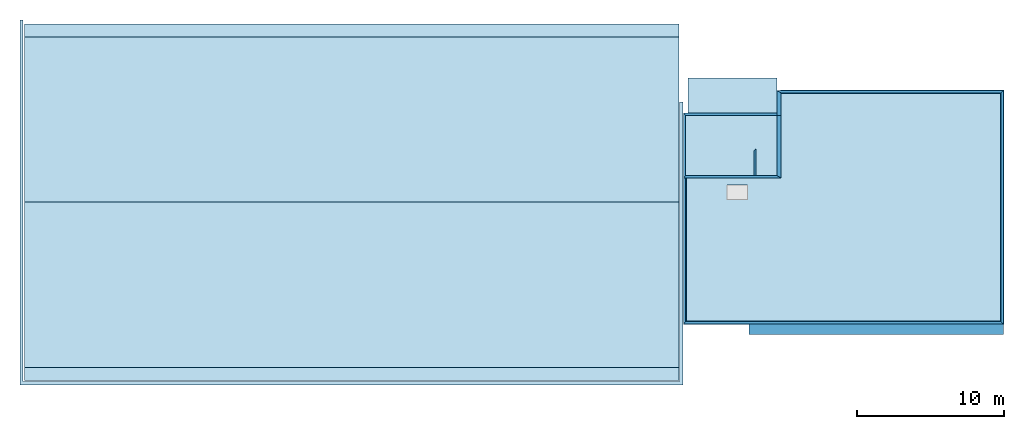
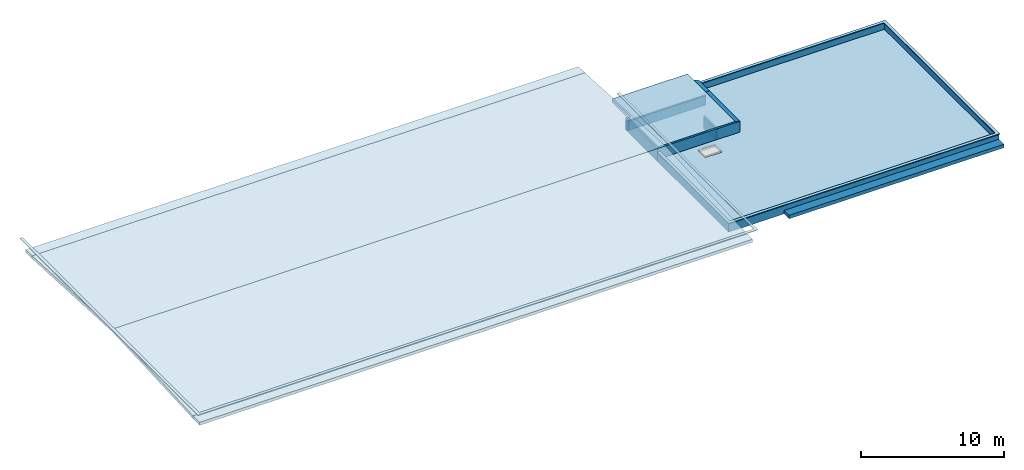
# One storey, part 1 of 2: 10 walls, 8 slabs, 1 beam, 1 opening.
"""IFC2X3 building model written with IfcOpenShell, lengths in metres."""

from ifc_helpers import new_model, entity, si_unit, converted_unit, money_unit, direction, frame, frame_2d, origin_with_axes, place, context, subcontext, project, spatial, polyline, rectangle, outline, extrude, material, layer, layer_set, layer_usage, type_object, element, save


model = new_model("IFC2X3")

# Units and contexts
model_context = context("Model", 3, precision=1e-05, world=origin_with_axes(), true_north=direction((0.0, 1.0)))
body_context = subcontext(model_context, "Body", "Model", "MODEL_VIEW")
ifc_project = project(units=[si_unit("LENGTHUNIT", "METRE"), si_unit("AREAUNIT", "SQUARE_METRE"), si_unit("VOLUMEUNIT", "CUBIC_METRE"), converted_unit("PLANEANGLEUNIT", "DEGREE", entity("IfcPlaneAngleMeasure", 0.0174532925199), si_unit("PLANEANGLEUNIT", "RADIAN"), dimensions=[0, 0, 0, 0, 0, 0, 0]), si_unit("SOLIDANGLEUNIT", "STERADIAN"), money_unit("EUR"), converted_unit("TIMEUNIT", "Year", entity("IfcTimeMeasure", 31556926.0), si_unit("TIMEUNIT", "SECOND"), dimensions=[0, 0, 0, 0, 0, 0, 0]), si_unit("MASSUNIT", "GRAM"), si_unit("THERMODYNAMICTEMPERATUREUNIT", "DEGREE_CELSIUS"), si_unit("LUMINOUSINTENSITYUNIT", "LUMEN")], contexts=[model_context])

# Site, building, storey
site_placement = place(None, origin_with_axes())
site = spatial("IfcSite", under=ifc_project, at=site_placement, Name="Site", CompositionType="ELEMENT")
building_placement = place(site_placement, origin_with_axes())
building = spatial("IfcBuilding", under=site, at=building_placement, Name="Bâtiment", CompositionType="ELEMENT")
storey_placement = place(building_placement, frame((0.0, 0.0, 6.2), z_axis=(0.0, 0.0, 1.0), x_axis=(1.0, 0.0, 0.0)))
storey = spatial("IfcBuildingStorey", under=building, at=storey_placement, Name="PLAN DE MASSE-TOITURE", CompositionType="ELEMENT", Elevation=6.2)

# Beam
ifc_material_1 = material(Name="Hachure solide 2670559909")
beam_type = type_object("IfcBeamType", Name="Hachure solide 2670559909 700 x 300", PredefinedType="NOTDEFINED")
beam_placement = place(storey_placement, frame((67.258457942, 5.51881571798, 0.3), z_axis=(0.0, 0.0, 1.0), x_axis=(0.0, 1.0, 0.0)))
element("IfcBeam", 1, at=beam_placement, inside=storey, type_object=beam_type, material=ifc_material_1, Name="Pou-002", ObjectType="Hachure solide 2670559909 700 x 300", context=body_context, shape_type="SweptSolid", body=[
    extrude(rectangle(XDim=0.3, YDim=0.7, at=frame_2d((-0.15, 0.0), x_axis=(1.0, 0.0))), frame((0.0, 0.0, 0.0), z_axis=(0.0, 1.0, 0.0), x_axis=(0.0, 0.0, 1.0)), (0.0, 0.0, 1.0), 17.32),
])

# Slabs
ifc_material_2 = material(Name="Hachure solide* 2593434267")
ifc_layer_1 = layer(ifc_material_2, 0.3, ventilated="UNKNOWN")
ifc_layer_set_1 = layer_set([ifc_layer_1], Name="Hachure solide* 2593434267 0.3")
ifc_layer_usage_1 = layer_usage(ifc_layer_set_1, "AXIS3", "NEGATIVE", 0.3)
slab_type_1 = type_object("IfcSlabType", Name="Hachure solide* 2593434267 300", PredefinedType="FLOOR")
slab_1_placement = place(storey_placement, frame((45.778457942, 22.628815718, 1.1), z_axis=(0.0, 0.0, 1.0), x_axis=(1.0, 0.0, 0.0)))
element("IfcSlab", 2, at=slab_1_placement, inside=storey, type_object=slab_type_1, material=ifc_layer_usage_1, Name="Dalle-001", PredefinedType="FLOOR", context=body_context, shape_type="SweptSolid", body=[
    extrude(outline(polyline([(0.0, 0.0), (0.0, -2.56), (-0.14, -2.56), (-0.14, -6.66), (6.06, -6.66), (6.06, 0.0), (0.0, 0.0)])), frame((0.0, 0.0, -0.3), z_axis=(0.0, 0.0, 1.0), x_axis=(1.0, 0.0, 0.0)), (0.0, 0.0, 1.0), 0.3),
])
ifc_material_3 = material(Name="Placomur 278529293")
ifc_layer_2 = layer(ifc_material_3, 0.0599999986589, ventilated="UNKNOWN")
ifc_material_4 = material(Name="Hachure solide 278529293")
ifc_layer_3 = layer(ifc_material_4, 0.0359999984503, ventilated="UNKNOWN")
ifc_material_5 = material(Name="Contre-plaqué 270275980")
ifc_layer_4 = layer(ifc_material_5, 0.0219999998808, ventilated="UNKNOWN")
ifc_material_6 = material(Name="Isolation structures 337961919")
ifc_layer_5 = layer(ifc_material_6, 0.10000000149, ventilated="UNKNOWN")
ifc_material_7 = material(Name="Bois 270275980")
ifc_layer_6 = layer(ifc_material_7, 0.0320000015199, ventilated="UNKNOWN")
ifc_layer_set_2 = layer_set([ifc_layer_2, ifc_layer_3, ifc_layer_4, ifc_layer_5, ifc_layer_6], Name="3/Couches toiture 250mm")
ifc_layer_usage_2 = layer_usage(ifc_layer_set_2, "AXIS3", "NEGATIVE", 0.25)
slab_type_2 = type_object("IfcSlabType", Name="3/Couches toiture 250mm 289", PredefinedType="ROOF")
slab_2_placement = place(storey_placement, frame((0.638618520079, 2.02911584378, 1.58), z_axis=(0.0, 0.0, 1.0), x_axis=(1.0, 0.0, 0.0)))
element("IfcSlab", 3, at=slab_2_placement, inside=storey, type_object=slab_type_2, material=ifc_layer_usage_2, Name="Toit-003", PredefinedType="ROOF", context=body_context, shape_type="SweptSolid", body=[
    extrude(outline(polyline([(0.0, 0.0), (44.5398394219, 0.0), (44.5398394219, 0.900128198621), (0.0, 0.900128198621), (0.0, 0.0)])), frame((0.0, 0.0, 0.0), z_axis=(0.0, -0.0168767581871, 0.999857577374), x_axis=(1.0, 0.0, 0.0)), (0.0, 0.0168767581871, 0.999857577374), 0.250035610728),
])
ifc_layer_usage_3 = layer_usage(ifc_layer_set_2, "AXIS3", "NEGATIVE", 0.25)
slab_3_placement = place(storey_placement, frame((45.178457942, 26.2891158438, 1.58), z_axis=(0.0, 0.0, 1.0), x_axis=(-1.0, 0.0, 0.0)))
element("IfcSlab", 4, at=slab_3_placement, inside=storey, type_object=slab_type_2, material=ifc_layer_usage_3, Name="Toit-003", PredefinedType="ROOF", context=body_context, shape_type="SweptSolid", body=[
    extrude(outline(polyline([(44.5398394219, 0.0), (44.5398394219, 0.900128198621), (0.0, 0.900128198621), (0.0, 0.0), (44.5398394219, 0.0)])), frame((0.0, 0.0, 0.0), z_axis=(0.0, -0.0168767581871, 0.999857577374), x_axis=(1.0, 0.0, 0.0)), (0.0, 0.0168767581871, 0.999857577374), 0.250035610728),
])
ifc_layer_usage_4 = layer_usage(ifc_layer_set_2, "AXIS3", "NEGATIVE", 0.25)
slab_type_3 = type_object("IfcSlabType", Name="3/Couches toiture 250mm 288", PredefinedType="ROOF")
slab_4_placement = place(storey_placement, frame((45.178457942, 25.3891158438, 1.6), z_axis=(0.0, 0.0, 1.0), x_axis=(-1.0, 0.0, 0.0)))
element("IfcSlab", 5, at=slab_4_placement, inside=storey, type_object=slab_type_3, material=ifc_layer_usage_4, Name="Toit-003", PredefinedType="ROOF", context=body_context, shape_type="SweptSolid", body=[
    extrude(outline(polyline([(44.5398394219, 0.0), (44.5398394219, 11.2450012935), (0.0, 11.2450012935), (0.0, 0.0), (44.5398394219, 0.0)])), frame((0.0, 0.0, 0.0), z_axis=(0.0, -0.0516362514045, 0.998665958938), x_axis=(1.0, 0.0, 0.0)), (0.0, 0.0516362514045, 0.998665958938), 0.250333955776),
])
ifc_layer_usage_5 = layer_usage(ifc_layer_set_2, "AXIS3", "NEGATIVE", 0.25)
slab_5_placement = place(storey_placement, frame((0.638618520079, 2.92911584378, 1.6), z_axis=(0.0, 0.0, 1.0), x_axis=(1.0, 0.0, 0.0)))
element("IfcSlab", 6, at=slab_5_placement, inside=storey, type_object=slab_type_3, material=ifc_layer_usage_5, Name="Toit-003", PredefinedType="ROOF", context=body_context, shape_type="SweptSolid", body=[
    extrude(outline(polyline([(0.0, 0.0), (44.5398394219, 0.0), (44.5398394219, 11.2450012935), (0.0, 11.2450012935), (0.0, 0.0)])), frame((0.0, 0.0, 0.0), z_axis=(0.0, -0.0516362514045, 0.998665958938), x_axis=(1.0, 0.0, 0.0)), (0.0, 0.0516362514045, 0.998665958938), 0.250333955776),
])
ifc_material_8 = material(Name="Bloc béton 2590676203")
ifc_layer_7 = layer(ifc_material_8, 0.05, ventilated="UNKNOWN")
ifc_layer_set_3 = layer_set([ifc_layer_7], Name="Bloc béton 2590676203 0.05")
ifc_layer_usage_6 = layer_usage(ifc_layer_set_3, "AXIS3", "NEGATIVE", 0.05)
slab_type_4 = type_object("IfcSlabType", Name="Bloc béton 2590676203 50", PredefinedType="FLOOR")
slab_6_placement = place(storey_placement, frame((0.558618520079, 26.5591158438, 2.75), z_axis=(0.0, 0.0, 1.0), x_axis=(1.0, 0.0, 0.0)))
element("IfcSlab", 7, at=slab_6_placement, inside=storey, type_object=slab_type_4, material=ifc_layer_usage_6, Name="Dalle-002", PredefinedType="FLOOR", context=body_context, shape_type="SweptSolid", body=[
    extrude(outline(polyline([(0.0, 0.0), (-0.22, 0.0), (-0.22, -24.83), (44.8898394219, -24.83), (44.8898394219, -5.5771661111), (44.6698394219, -5.5771661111), (44.6698394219, -24.61), (0.0, -24.61), (0.0, 0.0)])), frame((0.0, 0.0, -0.05), z_axis=(0.0, 0.0, 1.0), x_axis=(1.0, 0.0, 0.0)), (0.0, 0.0, 1.0), 0.05),
])
ifc_layer_usage_7 = layer_usage(ifc_layer_set_3, "AXIS3", "NEGATIVE", 0.05)
slab_7_placement = place(storey_placement, frame((52.098457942, 21.558815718, 0.78), z_axis=(0.0, 0.0, 1.0), x_axis=(1.0, 0.0, 0.0)))
element("IfcSlab", 8, at=slab_7_placement, inside=storey, type_object=slab_type_4, material=ifc_layer_usage_7, Name="Dalle-002", PredefinedType="FLOOR", context=body_context, shape_type="SweptSolid", body=[
    extrude(outline(polyline([(0.0, 0.0), (14.96, 0.0), (14.96, -15.49), (-6.41, -15.49), (-6.41, -5.75), (-6.62, -5.75), (-6.62, -15.73), (15.2, -15.73), (15.2, 0.24), (0.0, 0.24), (0.0, 0.0)])), frame((0.0, 0.0, -0.05), z_axis=(0.0, 0.0, 1.0), x_axis=(1.0, 0.0, 0.0)), (0.0, 0.0, 1.0), 0.05),
])

# Slab, opening
ifc_layer_8 = layer(ifc_material_2, 0.18, ventilated="UNKNOWN")
ifc_layer_set_4 = layer_set([ifc_layer_8], Name="Hachure solide* 2593434267 0.18")
ifc_layer_usage_8 = layer_usage(ifc_layer_set_4, "AXIS3", "NEGATIVE", 0.18)
slab_type_5 = type_object("IfcSlabType", Name="Hachure solide* 2593434267 180", PredefinedType="FLOOR")
slab_8_placement = place(storey_placement, frame((45.638457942, 20.0688156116, 0.18), z_axis=(0.0, 0.0, 1.0), x_axis=(1.0, 0.0, 0.0)))
slab_8 = element("IfcSlab", 9, at=slab_8_placement, inside=storey, type_object=slab_type_5, material=ifc_layer_usage_8, Name="Dalle-001", PredefinedType="FLOOR", context=body_context, shape_type="SweptSolid", body=[
    extrude(outline(polyline([(0.0, 0.0), (0.0, -14.0399998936), (21.46, -14.0399998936), (21.46, 1.53000000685), (6.5000000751, 1.53000000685), (6.5000000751, 0.0), (0.0, 0.0)])), frame((0.0, 0.0, -0.18), z_axis=(0.0, 0.0, 1.0), x_axis=(1.0, 0.0, 0.0)), (0.0, 0.0, 1.0), 0.18),
])
opening_placement = place(slab_8_placement, origin_with_axes())
element("IfcOpeningElement", 10, at=opening_placement, cuts=slab_8, Name="Slab Opening", context=body_context, shape_type="SweptSolid", body=[
    extrude(outline(polyline([(4.20774361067, -5.7375670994), (4.20774361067, -4.73756694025), (2.80774377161, -4.73756694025), (2.80774377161, -5.7375670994), (4.20774361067, -5.7375670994)])), frame((0.0, 0.0, -0.18), z_axis=(0.0, 0.0, 1.0), x_axis=(1.0, 0.0, 0.0)), (0.0, 0.0, 1.0), 0.18),
])

# Walls
ifc_material_9 = material(Name="Hachure solide* 3962059836")
ifc_layer_9 = layer(ifc_material_9, 0.16, ventilated="UNKNOWN")
ifc_layer_set_5 = layer_set([ifc_layer_9], Name="Hachure solide* 3962059836 0.16")
ifc_layer_usage_9 = layer_usage(ifc_layer_set_5, "AXIS2", "POSITIVE", -0.16)
wall_type_1 = type_object("IfcWallType", Name="Hachure solide* 3962059836 160", PredefinedType="NOTDEFINED")
wall_1_placement = place(storey_placement, frame((45.478457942, 5.86881571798, 0.0), z_axis=(0.0, 0.0, 1.0), x_axis=(0.0, 1.0, 0.0)))
element("IfcWallStandardCase", 11, at=wall_1_placement, inside=storey, type_object=wall_type_1, material=ifc_layer_usage_9, Name="Mur-005", context=body_context, shape_type="SweptSolid", body=[
    extrude(outline(polyline([(0.16, -0.16), (9.94000000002, -0.16), (9.94000000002, 0.0), (0.0, 0.0), (0.16, -0.16)])), origin_with_axes(), (0.0, 0.0, 1.0), 0.73),
])
ifc_layer_usage_10 = layer_usage(ifc_layer_set_5, "AXIS2", "POSITIVE", -0.16)
wall_2_placement = place(storey_placement, frame((51.838457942, 15.808815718, 0.18), z_axis=(0.0, 0.0, 1.0), x_axis=(-1.0, 0.0, 0.0)))
element("IfcWallStandardCase", 12, at=wall_2_placement, inside=storey, type_object=wall_type_1, material=ifc_layer_usage_10, Name="Mur-004", context=body_context, shape_type="SweptSolid", body=[
    extrude(outline(polyline([(0.0, -0.16), (6.2, -0.16), (6.36, 0.0), (-0.3, 0.0), (0.0, -0.16)])), origin_with_axes(), (0.0, 0.0, 1.0), 0.92),
])
ifc_layer_usage_11 = layer_usage(ifc_layer_set_5, "AXIS2", "POSITIVE", -0.16)
wall_3_placement = place(storey_placement, frame((45.478457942, 15.808815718, 0.0), z_axis=(0.0, 0.0, 1.0), x_axis=(0.0, 1.0, 0.0)))
element("IfcWallStandardCase", 13, at=wall_3_placement, inside=storey, type_object=wall_type_1, material=ifc_layer_usage_11, Name="Mur-005", context=body_context, shape_type="SweptSolid", body=[
    extrude(outline(polyline([(0.16, -0.16), (4.26, -0.16), (4.42, 0.0), (0.0, 0.0), (0.16, -0.16)])), origin_with_axes(), (0.0, 0.0, 1.0), 1.1),
])
ifc_layer_usage_12 = layer_usage(ifc_layer_set_5, "AXIS2", "POSITIVE", -0.16)
wall_4_placement = place(storey_placement, frame((50.438457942, 17.828815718, 0.0), z_axis=(0.0, 0.0, 1.0), x_axis=(0.0, -1.0, 0.0)))
element("IfcWallStandardCase", 14, at=wall_4_placement, inside=storey, type_object=wall_type_1, material=ifc_layer_usage_12, Name="Mur-006", context=body_context, shape_type="SweptSolid", body=[
    extrude(outline(polyline([(0.16, -0.16), (1.86, -0.16), (1.86, 0.0), (0.0, 0.0), (0.16, -0.16)])), origin_with_axes(), (0.0, 0.0, 1.0), 1.0),
])
ifc_layer_usage_13 = layer_usage(ifc_layer_set_5, "AXIS2", "POSITIVE", -0.16)
wall_5_placement = place(storey_placement, frame((45.478457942, 20.228815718, 0.0), z_axis=(0.0, 0.0, 1.0), x_axis=(1.0, 0.0, 0.0)))
element("IfcWallStandardCase", 15, at=wall_5_placement, inside=storey, type_object=wall_type_1, material=ifc_layer_usage_13, Name="Mur-005", context=body_context, shape_type="SweptSolid", body=[
    extrude(outline(polyline([(0.16, -0.16), (6.36, -0.16), (6.36, 0.0), (0.0, 0.0), (0.16, -0.16)])), origin_with_axes(), (0.0, 0.0, 1.0), 0.8),
])
ifc_layer_usage_14 = layer_usage(ifc_layer_set_5, "AXIS2", "POSITIVE", 0.0)
wall_6_placement = place(storey_placement, frame((67.258457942, 5.86881571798, 0.0), z_axis=(0.0, 0.0, 1.0), x_axis=(0.0, 1.0, 0.0)))
element("IfcWallStandardCase", 16, at=wall_6_placement, inside=storey, type_object=wall_type_1, material=ifc_layer_usage_14, Name="Mur-004", context=body_context, shape_type="SweptSolid", body=[
    extrude(outline(polyline([(0.0, 0.0), (15.89, 0.0), (15.73, 0.16), (0.16, 0.16), (0.0, 0.0)])), origin_with_axes(), (0.0, 0.0, 1.0), 0.73),
])
ifc_layer_usage_15 = layer_usage(ifc_layer_set_5, "AXIS2", "POSITIVE", 0.0)
wall_7_placement = place(storey_placement, frame((45.478457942, 5.86881571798, 0.0), z_axis=(0.0, 0.0, 1.0), x_axis=(1.0, 0.0, 0.0)))
element("IfcWallStandardCase", 17, at=wall_7_placement, inside=storey, type_object=wall_type_1, material=ifc_layer_usage_15, Name="Mur-004", context=body_context, shape_type="SweptSolid", body=[
    extrude(outline(polyline([(0.0, 0.0), (21.78, 0.0), (21.62, 0.16), (0.16, 0.16), (0.0, 0.0)])), origin_with_axes(), (0.0, 0.0, 1.0), 0.73),
])
ifc_layer_usage_16 = layer_usage(ifc_layer_set_5, "AXIS2", "POSITIVE", -0.16)
wall_8_placement = place(storey_placement, frame((51.838457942, 21.758815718, 0.0), z_axis=(0.0, 0.0, 1.0), x_axis=(1.0, 0.0, 0.0)))
element("IfcWallStandardCase", 18, at=wall_8_placement, inside=storey, type_object=wall_type_1, material=ifc_layer_usage_16, Name="Mur-004", context=body_context, shape_type="SweptSolid", body=[
    extrude(outline(polyline([(0.3, -0.16), (15.26, -0.16), (15.42, 0.0), (0.0, 0.0), (0.3, -0.16)])), origin_with_axes(), (0.0, 0.0, 1.0), 0.73),
])
ifc_layer_10 = layer(ifc_material_9, 0.3, ventilated="UNKNOWN")
ifc_layer_set_6 = layer_set([ifc_layer_10], Name="Hachure solide* 3962059836 0.3")
ifc_layer_usage_17 = layer_usage(ifc_layer_set_6, "AXIS2", "POSITIVE", -0.3)
wall_type_2 = type_object("IfcWallType", Name="Hachure solide* 3962059836 300", PredefinedType="NOTDEFINED")
wall_9_placement = place(storey_placement, frame((51.838457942, 20.068815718, 0.0), z_axis=(0.0, 0.0, 1.0), x_axis=(0.0, 1.0, 0.0)))
element("IfcWallStandardCase", 19, at=wall_9_placement, inside=storey, type_object=wall_type_2, material=ifc_layer_usage_17, Name="Mur-004", context=body_context, shape_type="SweptSolid", body=[
    extrude(outline(polyline([(0.0, -0.3), (1.53, -0.3), (1.69, 0.0), (0.0, 0.0), (0.0, -0.3)])), origin_with_axes(), (0.0, 0.0, 1.0), 1.1),
])
ifc_layer_usage_18 = layer_usage(ifc_layer_set_6, "AXIS2", "POSITIVE", -0.3)
wall_10_placement = place(storey_placement, frame((51.838457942, 15.808815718, 0.18), z_axis=(0.0, 0.0, 1.0), x_axis=(0.0, 1.0, 0.0)))
element("IfcWallStandardCase", 20, at=wall_10_placement, inside=storey, type_object=wall_type_2, material=ifc_layer_usage_18, Name="Mur-004", context=body_context, shape_type="SweptSolid", body=[
    extrude(outline(polyline([(0.0, -0.3), (4.26, -0.3), (4.26, 0.0), (0.16, 0.0), (0.0, -0.3)])), origin_with_axes(), (0.0, 0.0, 1.0), 0.92),
])

save(model, "model.ifc")
